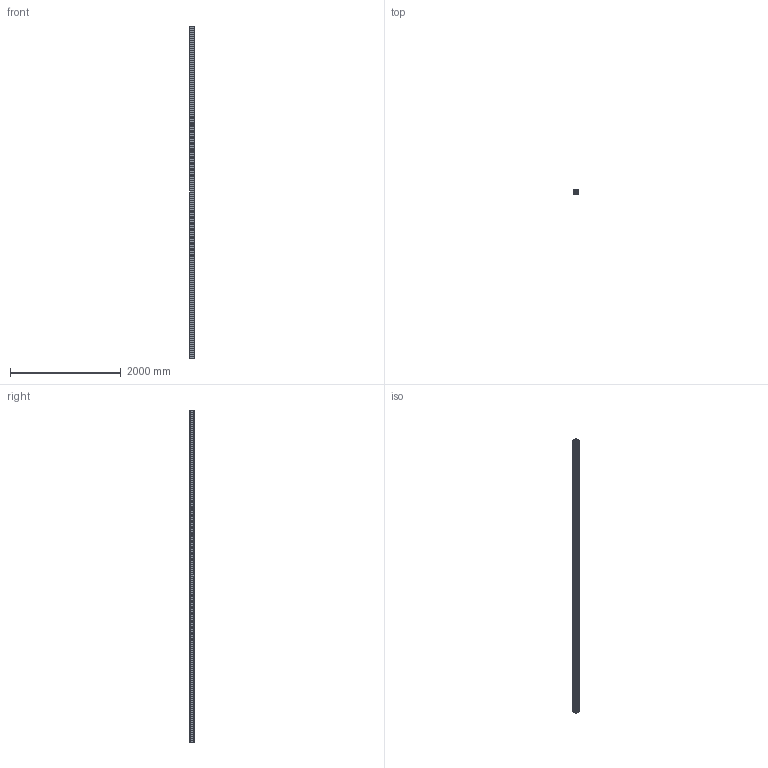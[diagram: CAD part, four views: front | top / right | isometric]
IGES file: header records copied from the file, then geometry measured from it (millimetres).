
Start section: SolidWorks IGES file using analytic representation for surfaces
Global section: file name: C:\Users\Ahmed\Desktop\Aluminium profiles\28-29-30-31\90x90 Slot 10 (Heavy).IGS; native system: SolidWorks 2016; preprocessor: SolidWorks 2016; author: Ahmed; date: 170810.020058; units: millimetre
Bounding box: 90 x 90 x 6000 mm (x, y, z)
Surface area: 9437392 mm2 (no closed solid volume)
Topology: 0 solids, 0 shells, 598 faces, 5434 edges, 5434 vertices
Faces by surface type: bspline 450, revolution 148
